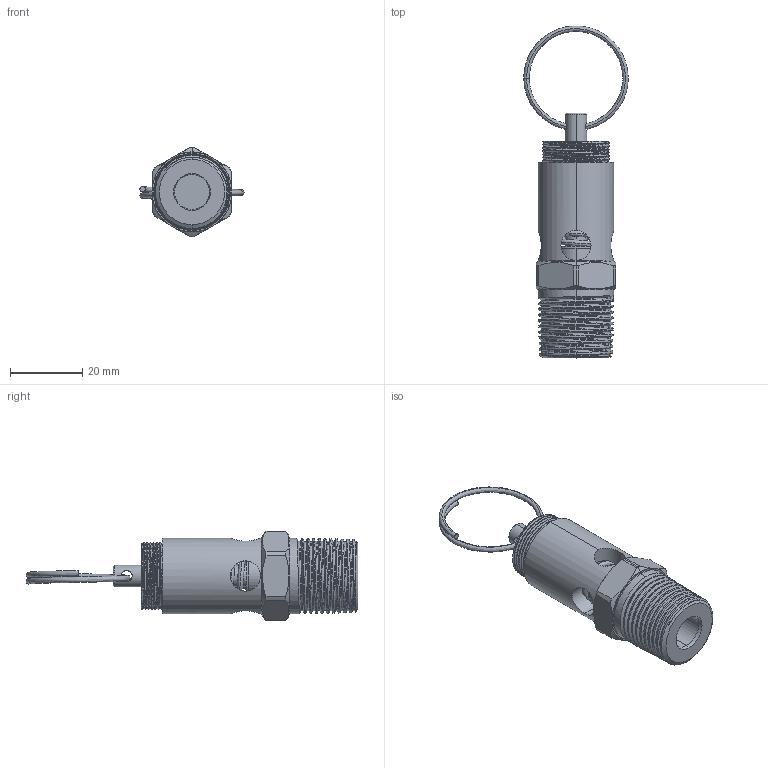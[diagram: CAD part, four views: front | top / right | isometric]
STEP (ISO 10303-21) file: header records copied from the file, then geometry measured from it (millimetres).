
FILE_DESCRIPTION (( 'STEP AP203' ), '1' );
FILE_NAME ('SSCV4-SERIES.STEP', '2020-06-01T16:51:53', ( '' ), ( '' ), 'SwSTEP 2.0', 'SolidWorks 2017', '' );
FILE_SCHEMA (( 'CONFIG_CONTROL_DESIGN' ));
Length unit declared in the file: inch
Products named in the file (2): SSCV4-SERIES
Bounding box: 28.96 x 92.2 x 24.76 mm (x, y, z)
Volume: 17912.6 mm3; surface area: 9766.6 mm2
Topology: 3 solids, 3 shells, 143 faces, 382 edges, 251 vertices
Faces by surface type: cylinder 47, cone 38, torus 25, plane 22, bspline 11
Entity records: 15652 total; most frequent: CARTESIAN_POINT 12250, ORIENTED_EDGE 760, DIRECTION 574, EDGE_CURVE 380, VERTEX_POINT 247, AXIS2_PLACEMENT_3D 240, EDGE_LOOP 157, B_SPLINE_CURVE_WITH_KNOTS 151
